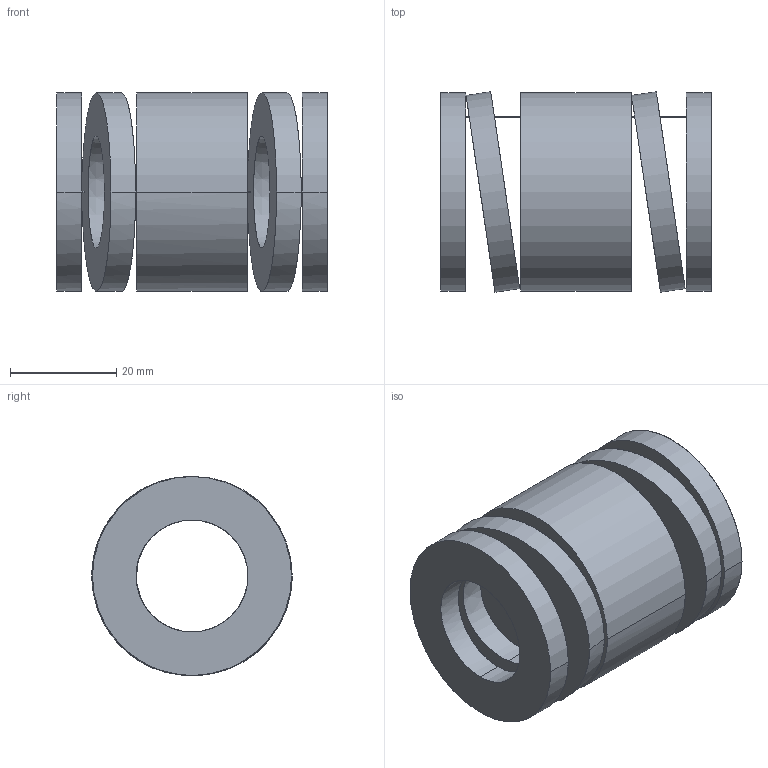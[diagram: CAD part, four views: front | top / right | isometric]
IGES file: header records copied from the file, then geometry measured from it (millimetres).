
Start section: START RECORD GO HERE.
Global section: file name: 392-B40-051.igs; native system: DASSAULT SYSTEMES CATIA V5 R20 - www.3ds.com; preprocessor: CATIA Version 5 Release 20 ; author: Utente; organization: NB04-ASUS; date: 20210813.132109; units: millimetre
Bounding box: 51 x 37.78 x 37.5 mm (x, y, z)
Surface area: 14836.8 mm2 (no closed solid volume)
Topology: 0 solids, 0 shells, 38 faces, 184 edges, 184 vertices
Faces by surface type: revolution 28, plane 10
